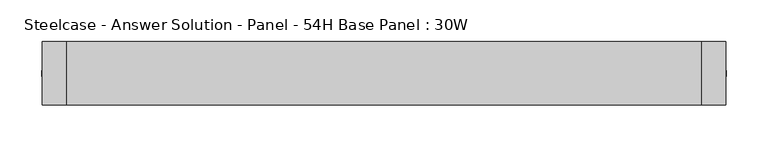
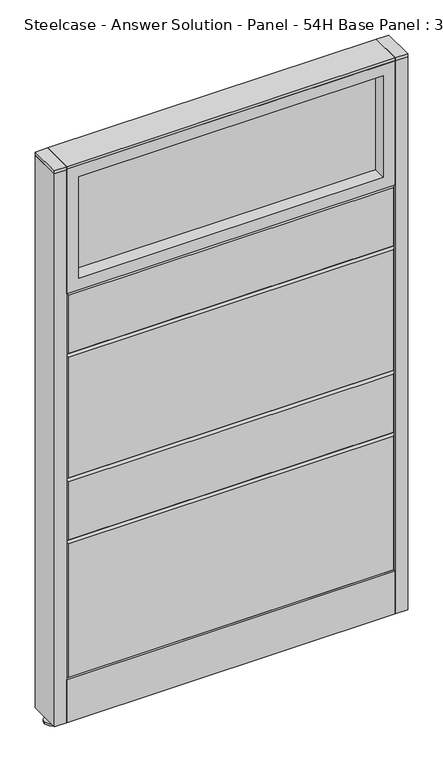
"""IFC4 building model written with IfcOpenShell, lengths in millimetres: furniture geometry, Steelcase - Answer Solution - Panel - 54H Base Panel : 30W."""

from ifc_helpers import new_model, si_unit, point, frame, frame_2d, origin, place, context, project, spatial, polyline, circle_curve, trimmed, segment, composite_curve, outline, extrude, faceted_brep, source, transform, mapped, element, save


def steelcase_answer_solution_panel_54h_base_panel_30w_37400501(model_context):
    return source(origin(), model_context, "Body", "SolidModel", [
        extrude(outline(composite_curve([segment(trimmed(circle_curve(frame_2d((395.224, 0.0320214)), 5.08), [point((400.304, 0.0320214))], [point((390.144, 0.0320214))], False, "CARTESIAN"), True, "CONTINUOUS"), segment(trimmed(circle_curve(frame_2d((395.224, 0.0320214)), 5.08), [point((390.144, 0.0320214))], [point((400.304, 0.0320214))], False, "CARTESIAN"), True, "CONTINUOUS")], self_intersect=False)), frame((0.0, 0.0, 5.0799671), z_axis=(0.0, 0.0, 1.0), x_axis=(1.0, 0.0, 0.0)), (0.0, 0.0, 1.0), 10.414),
        extrude(outline(composite_curve([segment(trimmed(circle_curve(frame_2d((395.224, 0.0320214)), 15.24), [point((410.464, 0.0320214))], [point((379.984, 0.0320214))], False, "CARTESIAN"), True, "CONTINUOUS"), segment(trimmed(circle_curve(frame_2d((395.224, 0.0320214)), 15.24), [point((379.984, 0.0320214))], [point((410.464, 0.0320214))], False, "CARTESIAN"), True, "CONTINUOUS")], self_intersect=False)), frame((0.0, 0.0, -3.29e-05), z_axis=(0.0, 0.0, 1.0), x_axis=(1.0, 0.0, 0.0)), (0.0, 0.0, 1.0), 5.08),
        extrude(outline(polyline([(409.575, 38.1320408), (409.575, -38.0679592), (381.0, -38.0679592), (381.0, 38.1320408), (409.575, 38.1320408)])), frame((0.0, 0.0, 1370.6348), z_axis=(0.0, 0.0, 1.0), x_axis=(1.0, 0.0, 0.0)), (0.0, 0.0, 1.0), 7.3151671),
        extrude(outline(polyline([(409.575, 38.1320408), (409.575, -38.0679592), (381.0, -38.0679592), (381.0, 38.1320408), (409.575, 38.1320408)])), frame((0.0, 0.0, 15.4939671), z_axis=(0.0, 0.0, 1.0), x_axis=(1.0, 0.0, 0.0)), (0.0, 0.0, 1.0), 1355.1408329),
        extrude(outline(composite_curve([segment(trimmed(circle_curve(frame_2d((-395.224, 0.0320214)), 5.08), [point((-400.304, 0.0320214))], [point((-390.144, 0.0320214))], False, "CARTESIAN"), True, "CONTINUOUS"), segment(trimmed(circle_curve(frame_2d((-395.224, 0.0320214)), 5.08), [point((-390.144, 0.0320214))], [point((-400.304, 0.0320214))], False, "CARTESIAN"), True, "CONTINUOUS")], self_intersect=False)), frame((0.0, 0.0, 5.0799671), z_axis=(0.0, 0.0, 1.0), x_axis=(1.0, 0.0, 0.0)), (0.0, 0.0, 1.0), 10.414),
        extrude(outline(composite_curve([segment(trimmed(circle_curve(frame_2d((-395.224, 0.0320214)), 15.24), [point((-410.464, 0.0320214))], [point((-379.984, 0.0320214))], False, "CARTESIAN"), True, "CONTINUOUS"), segment(trimmed(circle_curve(frame_2d((-395.224, 0.0320214)), 15.24), [point((-379.984, 0.0320214))], [point((-410.464, 0.0320214))], False, "CARTESIAN"), True, "CONTINUOUS")], self_intersect=False)), frame((0.0, 0.0, -3.29e-05), z_axis=(0.0, 0.0, 1.0), x_axis=(1.0, 0.0, 0.0)), (0.0, 0.0, 1.0), 5.08),
        extrude(outline(polyline([(-409.575, 38.1320408), (-381.0, 38.1320408), (-381.0, -38.0679592), (-409.575, -38.0679592), (-409.575, 38.1320408)])), frame((0.0, 0.0, 1370.6348), z_axis=(0.0, 0.0, 1.0), x_axis=(1.0, 0.0, 0.0)), (0.0, 0.0, 1.0), 7.3151671),
        extrude(outline(polyline([(-409.575, 38.1320408), (-381.0, 38.1320408), (-381.0, -38.0679592), (-409.575, -38.0679592), (-409.575, 38.1320408)])), frame((0.0, 0.0, 15.4939671), z_axis=(0.0, 0.0, 1.0), x_axis=(1.0, 0.0, 0.0)), (0.0, 0.0, 1.0), 1355.1408329),
        extrude(outline(polyline([(-353.06, 6.346049), (353.06, 6.346049), (353.06, -6.353951), (-353.06, -6.353951), (-353.06, 6.346049)])), frame((0.0, 0.0, 1094.74), z_axis=(0.0, 0.0, 1.0), x_axis=(1.0, 0.0, 0.0)), (0.0, 0.0, 1.0), 248.92),
        extrude(outline(polyline([(1371.6, -381.0), (1066.8, -381.0), (1066.8, 381.0), (1371.6, 381.0), (1371.6, -381.0)]), holes=[polyline([(1343.66, -353.06), (1343.66, 353.06), (1094.74, 353.06), (1094.74, -353.06), (1343.66, -353.06)])]), frame((0.0, -38.103951, 0.0), z_axis=(0.0, 1.0, 0.0), x_axis=(0.0, 0.0, 1.0)), (0.0, 0.0, 1.0), 76.2),
        faceted_brep([(-376.174, 38.1635011, 1061.974), (376.174, 38.1635011, 1061.974), (376.174, 38.1635011, 919.226), (-376.174, 38.1635011, 919.226), (-381.0, 33.3375011, 1066.8), (-381.0, 33.3375011, 914.4), (381.0, 33.3375011, 914.4), (381.0, 33.3375011, 1066.8)], [[[0, 1, 2, 3]], [[4, 5, 6, 7]], [[4, 7, 1, 0]], [[7, 6, 2, 1]], [[6, 5, 3, 2]], [[5, 4, 0, 3]]]),
        faceted_brep([(-376.174, 38.1635011, 909.574), (376.174, 38.1635011, 909.574), (376.174, 38.1635011, 614.426), (-376.174, 38.1635011, 614.426), (-381.0, 33.3375011, 914.4), (-381.0, 33.3375011, 609.6), (381.0, 33.3375011, 609.6), (381.0, 33.3375011, 914.4)], [[[0, 1, 2, 3]], [[4, 5, 6, 7]], [[4, 7, 1, 0]], [[7, 6, 2, 1]], [[6, 5, 3, 2]], [[5, 4, 0, 3]]]),
        faceted_brep([(-376.174, 38.1635011, 604.774), (376.174, 38.1635011, 604.774), (376.174, 38.1635011, 462.026), (-376.174, 38.1635011, 462.026), (-381.0, 33.3375011, 609.6), (-381.0, 33.3375011, 457.2), (381.0, 33.3375011, 457.2), (381.0, 33.3375011, 609.6)], [[[0, 1, 2, 3]], [[4, 5, 6, 7]], [[4, 7, 1, 0]], [[7, 6, 2, 1]], [[6, 5, 3, 2]], [[5, 4, 0, 3]]]),
        faceted_brep([(-376.174, 38.1635011, 452.374), (376.174, 38.1635011, 452.374), (376.174, 38.1635011, 125.476), (-376.174, 38.1635011, 125.476), (-381.0, 33.3375011, 457.2), (-381.0, 33.3375011, 120.65), (381.0, 33.3375011, 120.65), (381.0, 33.3375011, 457.2)], [[[0, 1, 2, 3]], [[4, 5, 6, 7]], [[4, 7, 1, 0]], [[7, 6, 2, 1]], [[6, 5, 3, 2]], [[5, 4, 0, 3]]]),
        extrude(outline(polyline([(353.06, -6.346049), (-353.06, -6.346049), (-353.06, 6.353951), (353.06, 6.353951), (353.06, -6.346049)])), frame((0.0, 0.0, 1094.74), z_axis=(0.0, 0.0, 1.0), x_axis=(1.0, 0.0, 0.0)), (0.0, 0.0, 1.0), 248.92),
        extrude(outline(polyline([(1371.6, 381.0), (1371.6, -381.0), (1066.8, -381.0), (1066.8, 381.0), (1371.6, 381.0)]), holes=[polyline([(1343.66, 353.06), (1094.74, 353.06), (1094.74, -353.06), (1343.66, -353.06), (1343.66, 353.06)])]), frame((0.0, -38.096049, 0.0), z_axis=(0.0, 1.0, 0.0), x_axis=(0.0, 0.0, 1.0)), (0.0, 0.0, 1.0), 76.2),
        faceted_brep([(376.174, -38.1635011, 1061.974), (-376.174, -38.1635011, 1061.974), (-376.174, -38.1635011, 919.226), (376.174, -38.1635011, 919.226), (381.0, -33.3375011, 1066.8), (381.0, -33.3375011, 914.4), (-381.0, -33.3375011, 914.4), (-381.0, -33.3375011, 1066.8)], [[[0, 1, 2, 3]], [[4, 5, 6, 7]], [[4, 7, 1, 0]], [[7, 6, 2, 1]], [[6, 5, 3, 2]], [[5, 4, 0, 3]]]),
        faceted_brep([(376.174, -38.1635011, 909.574), (-376.174, -38.1635011, 909.574), (-376.174, -38.1635011, 614.426), (376.174, -38.1635011, 614.426), (381.0, -33.3375011, 914.4), (381.0, -33.3375011, 609.6), (-381.0, -33.3375011, 609.6), (-381.0, -33.3375011, 914.4)], [[[0, 1, 2, 3]], [[4, 5, 6, 7]], [[4, 7, 1, 0]], [[7, 6, 2, 1]], [[6, 5, 3, 2]], [[5, 4, 0, 3]]]),
        faceted_brep([(376.174, -38.1635011, 604.774), (-376.174, -38.1635011, 604.774), (-376.174, -38.1635011, 462.026), (376.174, -38.1635011, 462.026), (381.0, -33.3375011, 609.6), (381.0, -33.3375011, 457.2), (-381.0, -33.3375011, 457.2), (-381.0, -33.3375011, 609.6)], [[[0, 1, 2, 3]], [[4, 5, 6, 7]], [[4, 7, 1, 0]], [[7, 6, 2, 1]], [[6, 5, 3, 2]], [[5, 4, 0, 3]]]),
        faceted_brep([(376.174, -38.1635011, 452.374), (-376.174, -38.1635011, 452.374), (-376.174, -38.1635011, 125.476), (376.174, -38.1635011, 125.476), (381.0, -33.3375011, 457.2), (381.0, -33.3375011, 120.65), (-381.0, -33.3375011, 120.65), (-381.0, -33.3375011, 457.2)], [[[0, 1, 2, 3]], [[4, 5, 6, 7]], [[4, 7, 1, 0]], [[7, 6, 2, 1]], [[6, 5, 3, 2]], [[5, 4, 0, 3]]]),
        extrude(outline(polyline([(381.0, 38.1000194), (381.0, -38.1000194), (-381.0, -38.1000194), (-381.0, 38.1000194), (381.0, 38.1000194)])), frame((0.0, 0.0, 1371.6), z_axis=(0.0, 0.0, 1.0), x_axis=(1.0, 0.0, 0.0)), (0.0, 0.0, 1.0), 6.35),
        extrude(outline(polyline([(25.4000011, 119.8575157), (25.4000011, 120.65), (38.1000194, 120.65), (38.1000194, 15.494), (37.3075215, 15.494), (37.3075215, 119.8575157), (25.4000011, 119.8575157)])), frame((-381.0, 0.0, 0.0), z_axis=(1.0, 0.0, 0.0), x_axis=(0.0, 1.0, 0.0)), (0.0, 0.0, 1.0), 762.0),
        extrude(outline(polyline([(-25.4000011, 119.8575157), (-37.3075215, 119.8575157), (-37.3075215, 15.494), (-38.1000194, 15.494), (-38.1000194, 120.65), (-25.4000011, 120.65), (-25.4000011, 119.8575157)])), frame((-381.0, 0.0, 0.0), z_axis=(1.0, 0.0, 0.0), x_axis=(0.0, 1.0, 0.0)), (0.0, 0.0, 1.0), 762.0),
    ])


if __name__ == "__main__":
    model = new_model("IFC4")
    model_context = context("Model", 3, world=origin())
    ifc_project = project(units=[si_unit("LENGTHUNIT", "METRE", prefix="MILLI")], contexts=[model_context])
    site = spatial("IfcSite", under=ifc_project)
    building = spatial("IfcBuilding", under=site)
    placement = place(None, origin())
    steelcase_answer_solution_panel_54h_base_panel_30w_shape = steelcase_answer_solution_panel_54h_base_panel_30w_37400501(model_context)
    element("IfcFurniture", 1, ObjectType="Steelcase - Answer Solution - Panel - 54H Base Panel : 30W", at=placement, inside=building, context=model_context, shape_type="MappedRepresentation", body=[
        mapped(steelcase_answer_solution_panel_54h_base_panel_30w_shape, transform((0.0, 0.0, 0.0), x_axis=(1.0, 0.0, 0.0), y_axis=(0.0, 1.0, 0.0), z_axis=(0.0, 0.0, 1.0))),
    ])
    save(model, "model.ifc")
